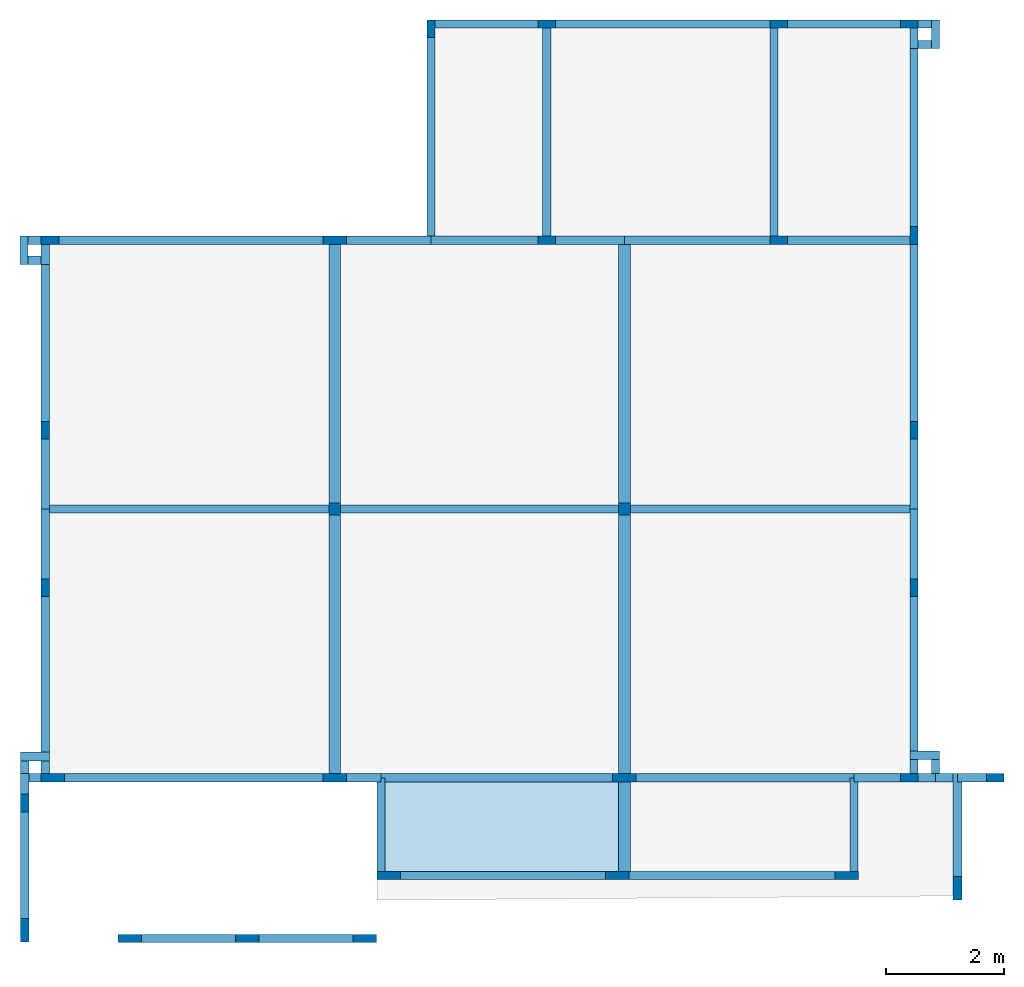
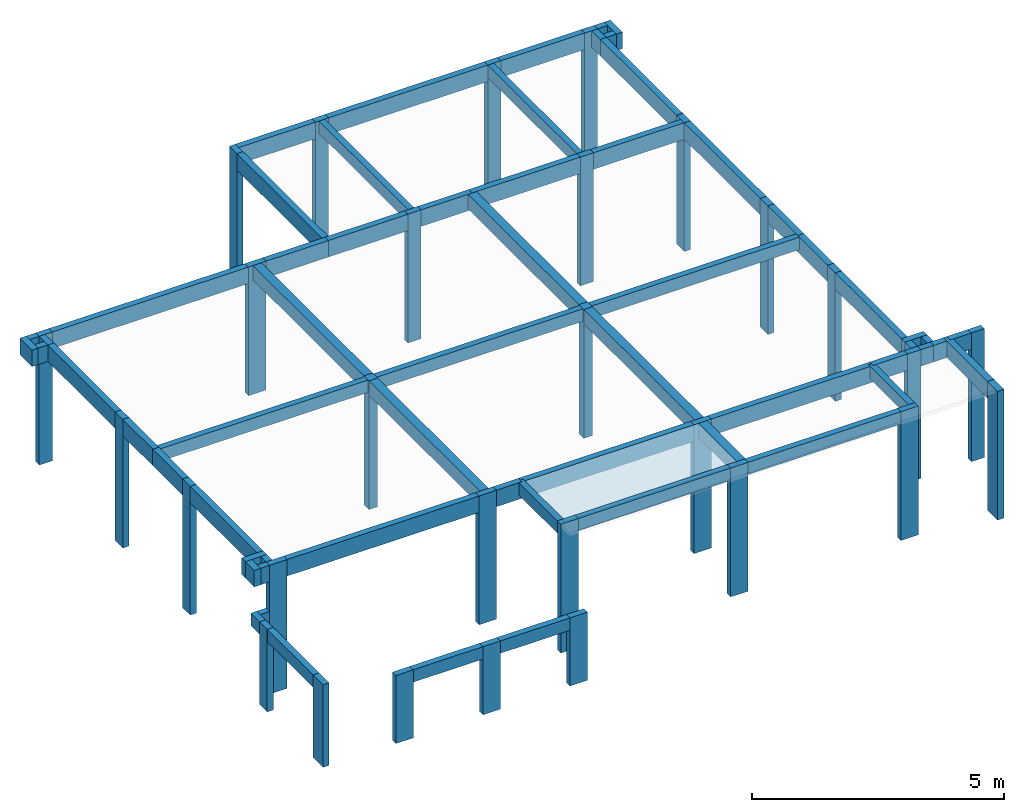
# One storey, part 1 of 7: 62 beams, 29 columns, 1 slab.
"""IFC4 building model written with IfcOpenShell, lengths in centimetres."""

from ifc_helpers import new_model, si_unit, derived_unit, frame, origin_with_axes, origin_2d_with_axis, place, context, project, spatial, polyline, rectangle, outline, extrude, material, element, save


model = new_model("IFC4")

# Units and contexts
model_context = context("Model", 3, precision=1e-05, world=origin_with_axes(), identifier="Body")
ifc_project = project(units=[si_unit("LENGTHUNIT", "METRE", prefix="CENTI"), si_unit("VOLUMEUNIT", "CUBIC_METRE"), si_unit("AREAUNIT", "SQUARE_METRE"), si_unit("POWERUNIT", "WATT"), si_unit("LUMINOUSFLUXUNIT", "LUMEN"), si_unit("ELECTRICCURRENTUNIT", "AMPERE"), si_unit("PRESSUREUNIT", "PASCAL", prefix="KILO"), si_unit("MASSUNIT", "GRAM", prefix="KILO"), si_unit("PLANEANGLEUNIT", "RADIAN"), derived_unit("VOLUMETRICFLOWRATEUNIT", [(si_unit("LENGTHUNIT", "METRE"), 3), (si_unit("TIMEUNIT", "SECOND"), -1)])], contexts=[model_context])

# Site, building, storey
site_placement = place(None, origin_with_axes())
site = spatial("IfcSite", under=ifc_project, at=site_placement)
building_placement = place(site_placement, frame((0.0, 0.0, 24.0)))
building = spatial("IfcBuilding", under=site, at=building_placement)
storey_placement = place(building_placement, frame((0.0, 0.0, 312.0), z_axis=(0.0, 0.0, 1.0), x_axis=(1.0, 0.0, 0.0)))
storey = spatial("IfcBuildingStorey", under=building, at=storey_placement, Name="RESPALDO", CompositionType="ELEMENT", Elevation=336.0)

# Columns
ifc_material = material(Name="Concreto")
for number, where, z_axis, x_axis, name in (
    (1, (682.38, 1555.0, 0.0), (0.0, 0.0, 1.0), (1.0, 0.0, 0.0), "P1"),
    (2, (26.5, 872.02, 0.0), (0.0, 0.0, 1.0), (1.0, 0.0, 0.0), "P10"),
    (3, (1504.19, 872.02, 0.0), (0.0, 0.0, 1.0), (1.0, 0.0, 0.0), "P11"),
):
    element("IfcColumn", number, at=place(storey_placement, frame(where, z_axis=z_axis, x_axis=x_axis)), inside=storey, material=ifc_material, Name=name, context=model_context, shape_type="SolidModel", body=[
        extrude(rectangle(XDim=14.0, YDim=30.0, at=origin_2d_with_axis()), origin_with_axes(), (0.0, 0.0, -1.0), 312.0),
    ])
for number, where, z_axis, x_axis, name in (
    (4, (519.06, 738.26, 0.0), (0.0, 0.0, 1.0), (1.0, 0.0, 0.0), "P12"),
    (5, (1011.63, 738.26, 0.0), (0.0, 0.0, 1.0), (1.0, 0.0, 0.0), "P13"),
):
    element("IfcColumn", number, at=place(storey_placement, frame(where, z_axis=z_axis, x_axis=x_axis)), inside=storey, material=ifc_material, Name=name, context=model_context, shape_type="SolidModel", body=[
        extrude(rectangle(XDim=20.0, YDim=20.0, at=origin_2d_with_axis()), origin_with_axes(), (0.0, 0.0, -1.0), 312.0),
    ])
for number, where, z_axis, x_axis, name in (
    (6, (26.5, 604.5, 0.0), (0.0, 0.0, 1.0), (1.0, 0.0, 0.0), "P14"),
    (7, (1504.19, 604.5, 0.0), (0.0, 0.0, 1.0), (1.0, 0.0, 0.0), "P15"),
):
    element("IfcColumn", number, at=place(storey_placement, frame(where, z_axis=z_axis, x_axis=x_axis)), inside=storey, material=ifc_material, Name=name, context=model_context, shape_type="SolidModel", body=[
        extrude(rectangle(XDim=14.0, YDim=30.0, at=origin_2d_with_axis()), origin_with_axes(), (0.0, 0.0, -1.0), 312.0),
    ])
column_1_placement = place(storey_placement, frame((-8.5, 238.13, -112.0), z_axis=(0.0, 0.0, 1.0), x_axis=(1.0, 0.0, 0.0)))
element("IfcColumn", 8, at=column_1_placement, inside=storey, material=ifc_material, Name="P16", context=model_context, shape_type="SolidModel", body=[
    extrude(rectangle(XDim=14.0, YDim=30.0, at=origin_2d_with_axis()), frame((0.0, 0.0, 0.0), z_axis=(0.0, 0.0, 1.0), x_axis=(-1.0, 0.0, 0.0)), (0.0, 0.0, -1.0), 200.0),
])
for number, where, z_axis, x_axis, name in (
    (9, (39.5, 281.0, 0.0), (0.0, 0.0, 1.0), (1.0, 0.0, 0.0), "P17"),
    (10, (519.06, 281.0, 0.0), (0.0, 0.0, 1.0), (1.0, 0.0, 0.0), "P18"),
    (11, (1011.63, 281.0, 0.0), (0.0, 0.0, 1.0), (1.0, 0.0, 0.0), "P19"),
):
    element("IfcColumn", number, at=place(storey_placement, frame(where, z_axis=z_axis, x_axis=x_axis)), inside=storey, material=ifc_material, Name=name, context=model_context, shape_type="SolidModel", body=[
        extrude(rectangle(XDim=14.0, YDim=40.0, at=origin_2d_with_axis()), frame((0.0, 0.0, 0.0), z_axis=(0.0, 0.0, 1.0), x_axis=(0.0, -1.0, 0.0)), (0.0, 0.0, -1.0), 312.0),
    ])
for number, where, z_axis, x_axis, name in (
    (12, (879.38, 1563.0, 0.0), (0.0, 0.0, 1.0), (1.0, 0.0, 0.0), "P2"),
    (13, (1496.18, 281.0, 0.0), (0.0, 0.0, 1.0), (1.0, 0.0, 0.0), "P20"),
    (14, (1642.23, 281.0, 0.0), (0.0, 0.0, 1.0), (1.0, 0.0, 0.0), "P21"),
):
    element("IfcColumn", number, at=place(storey_placement, frame(where, z_axis=z_axis, x_axis=x_axis)), inside=storey, material=ifc_material, Name=name, context=model_context, shape_type="SolidModel", body=[
        extrude(rectangle(XDim=14.0, YDim=30.0, at=origin_2d_with_axis()), frame((0.0, 0.0, 0.0), z_axis=(0.0, 0.0, 1.0), x_axis=(0.0, -1.0, 0.0)), (0.0, 0.0, -1.0), 312.0),
    ])
for number, where, z_axis, x_axis, name in (
    (15, (610.69, 115.0, 0.0), (0.0, 0.0, 1.0), (1.0, 0.0, 0.0), "P22"),
    (16, (999.69, 115.0, 0.0), (0.0, 0.0, 1.0), (1.0, 0.0, 0.0), "P23"),
    (17, (1389.69, 115.0, 0.0), (0.0, 0.0, 1.0), (1.0, 0.0, 0.0), "P24"),
):
    element("IfcColumn", number, at=place(storey_placement, frame(where, z_axis=z_axis, x_axis=x_axis)), inside=storey, material=ifc_material, Name=name, context=model_context, shape_type="SolidModel", body=[
        extrude(rectangle(XDim=14.0, YDim=40.0, at=origin_2d_with_axis()), frame((0.0, 0.0, 0.0), z_axis=(0.0, 0.0, 1.0), x_axis=(0.0, -1.0, 0.0)), (0.0, 0.0, -1.0), 312.0),
    ])
column_2_placement = place(storey_placement, frame((1578.23, 93.0, 0.0), z_axis=(0.0, 0.0, 1.0), x_axis=(1.0, 0.0, 0.0)))
element("IfcColumn", 18, at=column_2_placement, inside=storey, material=ifc_material, Name="P25", context=model_context, shape_type="SolidModel", body=[
    extrude(rectangle(XDim=15.0, YDim=40.0, at=origin_2d_with_axis()), origin_with_axes(), (0.0, 0.0, -1.0), 312.0),
])
column_3_placement = place(storey_placement, frame((-8.5, 21.5, -112.0), z_axis=(0.0, 0.0, 1.0), x_axis=(1.0, 0.0, 0.0)))
element("IfcColumn", 19, at=column_3_placement, inside=storey, material=ifc_material, Name="P26", context=model_context, shape_type="SolidModel", body=[
    extrude(rectangle(XDim=14.0, YDim=40.0, at=origin_2d_with_axis()), frame((0.0, 0.0, 0.0), z_axis=(0.0, 0.0, 1.0), x_axis=(-1.0, 0.0, 0.0)), (0.0, 0.0, -1.0), 200.0),
])
for number, where, z_axis, x_axis, name in (
    (20, (170.5, 7.5, -147.0), (0.0, 0.0, 1.0), (1.0, 0.0, 0.0), "P27"),
    (21, (370.0, 7.5, -147.0), (0.0, 0.0, 1.0), (1.0, 0.0, 0.0), "P28"),
    (22, (569.5, 7.5, -147.0), (0.0, 0.0, 1.0), (1.0, 0.0, 0.0), "P29"),
):
    element("IfcColumn", number, at=place(storey_placement, frame(where, z_axis=z_axis, x_axis=x_axis)), inside=storey, material=ifc_material, Name=name, context=model_context, shape_type="SolidModel", body=[
        extrude(rectangle(XDim=14.0, YDim=40.0, at=origin_2d_with_axis()), frame((0.0, 0.0, 0.0), z_axis=(0.0, 0.0, 1.0), x_axis=(0.0, -1.0, 0.0)), (0.0, 0.0, -1.0), 165.0),
    ])
for number, where, z_axis, x_axis, name in (
    (23, (1274.22, 1563.0, 0.0), (0.0, 0.0, 1.0), (1.0, 0.0, 0.0), "P3"),
    (24, (1496.18, 1563.0, 0.0), (0.0, 0.0, 1.0), (1.0, 0.0, 0.0), "P4"),
    (25, (34.5, 1195.52, 0.0), (0.0, 0.0, 1.0), (1.0, 0.0, 0.0), "P5"),
):
    element("IfcColumn", number, at=place(storey_placement, frame(where, z_axis=z_axis, x_axis=x_axis)), inside=storey, material=ifc_material, Name=name, context=model_context, shape_type="SolidModel", body=[
        extrude(rectangle(XDim=14.0, YDim=30.0, at=origin_2d_with_axis()), frame((0.0, 0.0, 0.0), z_axis=(0.0, 0.0, 1.0), x_axis=(0.0, -1.0, 0.0)), (0.0, 0.0, -1.0), 312.0),
    ])
column_4_placement = place(storey_placement, frame((519.06, 1195.52, 0.0), z_axis=(0.0, 0.0, 1.0), x_axis=(1.0, 0.0, 0.0)))
element("IfcColumn", 26, at=column_4_placement, inside=storey, material=ifc_material, Name="P6", context=model_context, shape_type="SolidModel", body=[
    extrude(rectangle(XDim=14.0, YDim=40.0, at=origin_2d_with_axis()), frame((0.0, 0.0, 0.0), z_axis=(0.0, 0.0, 1.0), x_axis=(0.0, -1.0, 0.0)), (0.0, 0.0, -1.0), 312.0),
])
for number, where, z_axis, x_axis, name in (
    (27, (879.38, 1195.52, 0.0), (0.0, 0.0, 1.0), (1.0, 0.0, 0.0), "P7"),
    (28, (1274.22, 1195.52, 0.0), (0.0, 0.0, 1.0), (1.0, 0.0, 0.0), "P8"),
):
    element("IfcColumn", number, at=place(storey_placement, frame(where, z_axis=z_axis, x_axis=x_axis)), inside=storey, material=ifc_material, Name=name, context=model_context, shape_type="SolidModel", body=[
        extrude(rectangle(XDim=14.0, YDim=30.0, at=origin_2d_with_axis()), frame((0.0, 0.0, 0.0), z_axis=(0.0, 0.0, 1.0), x_axis=(0.0, -1.0, 0.0)), (0.0, 0.0, -1.0), 312.0),
    ])
column_5_placement = place(storey_placement, frame((1504.18, 1203.52, 0.0), z_axis=(0.0, 0.0, 1.0), x_axis=(1.0, 0.0, 0.0)))
element("IfcColumn", 29, at=column_5_placement, inside=storey, material=ifc_material, Name="P9", context=model_context, shape_type="SolidModel", body=[
    extrude(rectangle(XDim=14.0, YDim=30.0, at=origin_2d_with_axis()), origin_with_axes(), (0.0, 0.0, -1.0), 312.0),
])

# Beams
beam_1_placement = place(storey_placement, frame((1076.8, 1563.0, 0.0), z_axis=(0.0, 0.0, 1.0), x_axis=(1.0, 0.0, 0.0)))
element("IfcBeam", 30, at=beam_1_placement, inside=storey, material=ifc_material, Name="V1", context=model_context, shape_type="SolidModel", body=[
    extrude(rectangle(XDim=14.0, YDim=40.0, at=origin_2d_with_axis()), frame((-182.42, 0.0, -20.0), z_axis=(1.0, 0.0, 0.0), x_axis=(0.0, 1.0, 0.0)), (0.0, 0.0, 1.0), 364.84),
])
beam_2_placement = place(storey_placement, frame((776.88, 1563.0, 0.0), z_axis=(0.0, 0.0, 1.0), x_axis=(1.0, 0.0, 0.0)))
element("IfcBeam", 31, at=beam_2_placement, inside=storey, material=ifc_material, Name="V1", context=model_context, shape_type="SolidModel", body=[
    extrude(rectangle(XDim=14.0, YDim=40.0, at=origin_2d_with_axis()), frame((-87.5, 0.0, -20.0), z_axis=(1.0, 0.0, 0.0), x_axis=(0.0, 1.0, 0.0)), (0.0, 0.0, 1.0), 175.0),
])
beam_3_placement = place(storey_placement, frame((1385.2, 1563.0, 0.0), z_axis=(0.0, 0.0, 1.0), x_axis=(1.0, 0.0, 0.0)))
element("IfcBeam", 32, at=beam_3_placement, inside=storey, material=ifc_material, Name="V1", context=model_context, shape_type="SolidModel", body=[
    extrude(rectangle(XDim=14.0, YDim=40.0, at=origin_2d_with_axis()), frame((-95.98, 0.0, -20.0), z_axis=(1.0, 0.0, 0.0), x_axis=(0.0, 1.0, 0.0)), (0.0, 0.0, 1.0), 191.96),
])
beam_4_placement = place(storey_placement, frame((1522.435, 1563.0, 0.0), z_axis=(0.0, 0.0, 1.0), x_axis=(1.0, 0.0, 0.0)))
element("IfcBeam", 33, at=beam_4_placement, inside=storey, material=ifc_material, Name="V1", context=model_context, shape_type="SolidModel", body=[
    extrude(rectangle(XDim=14.0, YDim=40.0, at=origin_2d_with_axis()), frame((-11.255, 0.0, -20.0), z_axis=(1.0, 0.0, 0.0), x_axis=(0.0, 1.0, 0.0)), (0.0, 0.0, 1.0), 22.51),
])
beam_5_placement = place(storey_placement, frame((879.38, 1379.26, 0.0), z_axis=(0.0, 0.0, 1.0), x_axis=(1.0, 0.0, 0.0)))
element("IfcBeam", 34, at=beam_5_placement, inside=storey, material=ifc_material, Name="V10", context=model_context, shape_type="SolidModel", body=[
    extrude(rectangle(XDim=14.0, YDim=30.0, at=origin_2d_with_axis()), frame((0.0, -176.74, -15.0), z_axis=(0.0, 1.0, 0.0), x_axis=(1.0, 0.0, 0.0)), (0.0, 0.0, 1.0), 353.48),
])
beam_6_placement = place(storey_placement, frame((1011.63, 971.89, 0.0), z_axis=(0.0, 0.0, 1.0), x_axis=(1.0, 0.0, 0.0)))
element("IfcBeam", 35, at=beam_6_placement, inside=storey, material=ifc_material, Name="V11", context=model_context, shape_type="SolidModel", body=[
    extrude(rectangle(XDim=20.0, YDim=35.0, at=origin_2d_with_axis()), frame((0.0, -223.63, -17.5), z_axis=(0.0, 1.0, 0.0), x_axis=(1.0, 0.0, 0.0)), (0.0, 0.0, 1.0), 447.26),
])
beam_7_placement = place(storey_placement, frame((1011.63, 198.0, 0.0), z_axis=(0.0, 0.0, 1.0), x_axis=(1.0, 0.0, 0.0)))
element("IfcBeam", 36, at=beam_7_placement, inside=storey, material=ifc_material, Name="V11", context=model_context, shape_type="SolidModel", body=[
    extrude(rectangle(XDim=20.0, YDim=35.0, at=origin_2d_with_axis()), frame((0.0, -76.0, -17.5), z_axis=(0.0, 1.0, 0.0), x_axis=(1.0, 0.0, 0.0)), (0.0, 0.0, 1.0), 152.0),
])
beam_8_placement = place(storey_placement, frame((1011.63, 508.13, 0.0), z_axis=(0.0, 0.0, 1.0), x_axis=(1.0, 0.0, 0.0)))
element("IfcBeam", 37, at=beam_8_placement, inside=storey, material=ifc_material, Name="V11", context=model_context, shape_type="SolidModel", body=[
    extrude(rectangle(XDim=20.0, YDim=35.0, at=origin_2d_with_axis()), frame((0.0, -220.13, -17.5), z_axis=(0.0, 1.0, 0.0), x_axis=(1.0, 0.0, 0.0)), (0.0, 0.0, 1.0), 440.26),
])
beam_9_placement = place(storey_placement, frame((1266.22, 1379.26, 0.0), z_axis=(0.0, 0.0, 1.0), x_axis=(1.0, 0.0, 0.0)))
element("IfcBeam", 38, at=beam_9_placement, inside=storey, material=ifc_material, Name="V12", context=model_context, shape_type="SolidModel", body=[
    extrude(rectangle(XDim=14.0, YDim=30.0, at=origin_2d_with_axis()), frame((0.0, -176.74, -15.0), z_axis=(0.0, 1.0, 0.0), x_axis=(1.0, 0.0, 0.0)), (0.0, 0.0, 1.0), 353.48),
])
beam_10_placement = place(storey_placement, frame((1402.19, 201.5, 0.0), z_axis=(0.0, 0.0, 1.0), x_axis=(1.0, 0.0, 0.0)))
element("IfcBeam", 39, at=beam_10_placement, inside=storey, material=ifc_material, Name="V13", context=model_context, shape_type="SolidModel", body=[
    extrude(rectangle(XDim=14.0, YDim=30.0, at=origin_2d_with_axis()), frame((0.0, -79.5, -15.0), z_axis=(0.0, 1.0, 0.0), x_axis=(1.0, 0.0, 0.0)), (0.0, 0.0, 1.0), 159.0),
])
beam_11_placement = place(storey_placement, frame((1504.18, 1538.75, 0.0), z_axis=(0.0, 0.0, 1.0), x_axis=(1.0, 0.0, 0.0)))
element("IfcBeam", 40, at=beam_11_placement, inside=storey, material=ifc_material, Name="V14", context=model_context, shape_type="SolidModel", body=[
    extrude(rectangle(XDim=14.0, YDim=40.0, at=origin_2d_with_axis()), frame((0.0, -17.25, -20.0), z_axis=(0.0, 1.0, 0.0), x_axis=(1.0, 0.0, 0.0)), (0.0, 0.0, 1.0), 34.5),
])
beam_12_placement = place(storey_placement, frame((1504.18, 300.25, 0.0), z_axis=(0.0, 0.0, 1.0), x_axis=(1.0, 0.0, 0.0)))
element("IfcBeam", 41, at=beam_12_placement, inside=storey, material=ifc_material, Name="V14", context=model_context, shape_type="SolidModel", body=[
    extrude(rectangle(XDim=14.0, YDim=40.0, at=origin_2d_with_axis()), frame((0.0, -12.25, -20.0), z_axis=(0.0, 1.0, 0.0), x_axis=(1.0, 0.0, 0.0)), (0.0, 0.0, 1.0), 24.5),
])
beam_13_placement = place(storey_placement, frame((1504.18, 1373.51, 0.0), z_axis=(0.0, 0.0, 1.0), x_axis=(1.0, 0.0, 0.0)))
element("IfcBeam", 42, at=beam_13_placement, inside=storey, material=ifc_material, Name="V14", context=model_context, shape_type="SolidModel", body=[
    extrude(rectangle(XDim=14.0, YDim=40.0, at=origin_2d_with_axis()), frame((0.0, -154.99, -20.0), z_axis=(0.0, 1.0, 0.0), x_axis=(1.0, 0.0, 0.0)), (0.0, 0.0, 1.0), 309.98),
])
beam_14_placement = place(storey_placement, frame((1504.18, 454.5, 0.0), z_axis=(0.0, 0.0, 1.0), x_axis=(1.0, 0.0, 0.0)))
element("IfcBeam", 43, at=beam_14_placement, inside=storey, material=ifc_material, Name="V14", context=model_context, shape_type="SolidModel", body=[
    extrude(rectangle(XDim=14.0, YDim=40.0, at=origin_2d_with_axis()), frame((0.0, -135.0, -20.0), z_axis=(0.0, 1.0, 0.0), x_axis=(1.0, 0.0, 0.0)), (0.0, 0.0, 1.0), 270.0),
])
for number, where, z_axis, x_axis, name in (
    (44, (1504.18, 797.64, 0.0), (0.0, 0.0, 1.0), (1.0, 0.0, 0.0), "V14"),
    (45, (1504.18, 678.88, 0.0), (0.0, 0.0, 1.0), (1.0, 0.0, 0.0), "V14"),
):
    element("IfcBeam", number, at=place(storey_placement, frame(where, z_axis=z_axis, x_axis=x_axis)), inside=storey, material=ifc_material, Name=name, context=model_context, shape_type="SolidModel", body=[
        extrude(rectangle(XDim=14.0, YDim=40.0, at=origin_2d_with_axis()), frame((0.0, -59.38, -20.0), z_axis=(0.0, 1.0, 0.0), x_axis=(1.0, 0.0, 0.0)), (0.0, 0.0, 1.0), 118.76),
    ])
beam_15_placement = place(storey_placement, frame((1504.18, 1037.77, 0.0), z_axis=(0.0, 0.0, 1.0), x_axis=(1.0, 0.0, 0.0)))
element("IfcBeam", 46, at=beam_15_placement, inside=storey, material=ifc_material, Name="V14", context=model_context, shape_type="SolidModel", body=[
    extrude(rectangle(XDim=14.0, YDim=40.0, at=origin_2d_with_axis()), frame((0.0, -150.75, -20.0), z_axis=(0.0, 1.0, 0.0), x_axis=(1.0, 0.0, 0.0)), (0.0, 0.0, 1.0), 301.5),
])
beam_16_placement = place(storey_placement, frame((1578.23, 200.5, 0.0), z_axis=(0.0, 0.0, 1.0), x_axis=(1.0, 0.0, 0.0)))
element("IfcBeam", 47, at=beam_16_placement, inside=storey, material=ifc_material, Name="V15", context=model_context, shape_type="SolidModel", body=[
    extrude(rectangle(XDim=15.0, YDim=40.0, at=origin_2d_with_axis()), frame((0.0, -87.5, -20.0), z_axis=(0.0, 1.0, 0.0), x_axis=(1.0, 0.0, 0.0)), (0.0, 0.0, 1.0), 175.0),
])
beam_17_placement = place(storey_placement, frame((1522.435, 1528.5, 0.0), z_axis=(0.0, 0.0, 1.0), x_axis=(1.0, 0.0, 0.0)))
element("IfcBeam", 48, at=beam_17_placement, inside=storey, material=ifc_material, Name="V16", context=model_context, shape_type="SolidModel", body=[
    extrude(rectangle(XDim=14.0, YDim=40.0, at=origin_2d_with_axis()), frame((11.255, 0.0, -20.0), z_axis=(-1.0, 0.0, 0.0), x_axis=(0.0, 1.0, 0.0)), (0.0, 0.0, 1.0), 22.51),
])
beam_18_placement = place(storey_placement, frame((1540.69, 1545.75, 0.0), z_axis=(0.0, 0.0, 1.0), x_axis=(1.0, 0.0, 0.0)))
element("IfcBeam", 49, at=beam_18_placement, inside=storey, material=ifc_material, Name="V16", context=model_context, shape_type="SolidModel", body=[
    extrude(rectangle(XDim=14.0, YDim=40.0, at=origin_2d_with_axis()), frame((0.0, 24.25, -20.0), z_axis=(0.0, -1.0, 0.0), x_axis=(1.0, 0.0, 0.0)), (0.0, 0.0, 1.0), 48.5),
])
beam_19_placement = place(storey_placement, frame((-9.5, 1178.52, 0.0), z_axis=(0.0, 0.0, 1.0), x_axis=(1.0, 0.0, 0.0)))
element("IfcBeam", 50, at=beam_19_placement, inside=storey, material=ifc_material, Name="V17", context=model_context, shape_type="SolidModel", body=[
    extrude(rectangle(XDim=14.0, YDim=40.0, at=origin_2d_with_axis()), frame((0.0, -24.0, -20.0), z_axis=(0.0, 1.0, 0.0), x_axis=(-1.0, 0.0, 0.0)), (0.0, 0.0, 1.0), 48.0),
])
beam_20_placement = place(storey_placement, frame((8.5, 1161.52, 0.0), z_axis=(0.0, 0.0, 1.0), x_axis=(1.0, 0.0, 0.0)))
element("IfcBeam", 51, at=beam_20_placement, inside=storey, material=ifc_material, Name="V17", context=model_context, shape_type="SolidModel", body=[
    extrude(rectangle(XDim=14.0, YDim=40.0, at=origin_2d_with_axis()), frame((11.0, 0.0, -20.0), z_axis=(-1.0, 0.0, 0.0), x_axis=(0.0, 1.0, 0.0)), (0.0, 0.0, 1.0), 22.0),
])
beam_21_placement = place(storey_placement, frame((1540.69, 300.25, 0.0), z_axis=(0.0, 0.0, 1.0), x_axis=(1.0, 0.0, 0.0)))
element("IfcBeam", 52, at=beam_21_placement, inside=storey, material=ifc_material, Name="V18", context=model_context, shape_type="SolidModel", body=[
    extrude(rectangle(XDim=14.0, YDim=40.0, at=origin_2d_with_axis()), frame((0.0, 12.25, -20.0), z_axis=(0.0, -1.0, 0.0), x_axis=(1.0, 0.0, 0.0)), (0.0, 0.0, 1.0), 24.5),
])
beam_22_placement = place(storey_placement, frame((1522.435, 319.5, 0.0), z_axis=(0.0, 0.0, 1.0), x_axis=(1.0, 0.0, 0.0)))
element("IfcBeam", 53, at=beam_22_placement, inside=storey, material=ifc_material, Name="V18", context=model_context, shape_type="SolidModel", body=[
    extrude(rectangle(XDim=14.0, YDim=40.0, at=origin_2d_with_axis()), frame((-25.255, 0.0, -20.0), z_axis=(1.0, 0.0, 0.0), x_axis=(0.0, 1.0, 0.0)), (0.0, 0.0, 1.0), 50.51),
])
beam_23_placement = place(storey_placement, frame((8.75, 317.0, 0.0), z_axis=(0.0, 0.0, 1.0), x_axis=(1.0, 0.0, 0.0)))
element("IfcBeam", 54, at=beam_23_placement, inside=storey, material=ifc_material, Name="V19", context=model_context, shape_type="SolidModel", body=[
    extrude(rectangle(XDim=15.0, YDim=40.0, at=origin_2d_with_axis()), frame((-24.75, 0.0, -20.0), z_axis=(1.0, 0.0, 0.0), x_axis=(0.0, 1.0, 0.0)), (0.0, 0.0, 1.0), 49.5),
])
beam_24_placement = place(storey_placement, frame((-8.5, 291.7486604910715, 0.0), z_axis=(0.0, 0.0, 1.0), x_axis=(1.0, 0.0, 0.0)))
element("IfcBeam", 55, at=beam_24_placement, inside=storey, material=ifc_material, Name="V19", context=model_context, shape_type="SolidModel", body=[
    extrude(rectangle(XDim=15.0, YDim=40.0, at=origin_2d_with_axis()), frame((0.0, -17.751339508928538, -20.0), z_axis=(0.0, 1.0, 0.0), x_axis=(-1.0, 0.0, 0.0)), (0.0, 0.0, 1.0), 35.50267901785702),
])
beam_25_placement = place(storey_placement, frame((274.28, 1195.52, 0.0), z_axis=(0.0, 0.0, 1.0), x_axis=(1.0, 0.0, 0.0)))
element("IfcBeam", 56, at=beam_25_placement, inside=storey, material=ifc_material, Name="V2", context=model_context, shape_type="SolidModel", body=[
    extrude(rectangle(XDim=14.0, YDim=40.0, at=origin_2d_with_axis()), frame((-224.78, 0.0, -20.0), z_axis=(1.0, 0.0, 0.0), x_axis=(0.0, 1.0, 0.0)), (0.0, 0.0, 1.0), 449.56),
])
beam_26_placement = place(storey_placement, frame((8.5, 1195.52, 0.0), z_axis=(0.0, 0.0, 1.0), x_axis=(1.0, 0.0, 0.0)))
element("IfcBeam", 57, at=beam_26_placement, inside=storey, material=ifc_material, Name="V2", context=model_context, shape_type="SolidModel", body=[
    extrude(rectangle(XDim=14.0, YDim=40.0, at=origin_2d_with_axis()), frame((-11.0, 0.0, -20.0), z_axis=(1.0, 0.0, 0.0), x_axis=(0.0, 1.0, 0.0)), (0.0, 0.0, 1.0), 22.0),
])
beam_27_placement = place(storey_placement, frame((610.72, 1195.52, 0.0), z_axis=(0.0, 0.0, 1.0), x_axis=(1.0, 0.0, 0.0)))
element("IfcBeam", 58, at=beam_27_placement, inside=storey, material=ifc_material, Name="V2", context=model_context, shape_type="SolidModel", body=[
    extrude(rectangle(XDim=14.0, YDim=40.0, at=origin_2d_with_axis()), frame((-71.66, 0.0, -20.0), z_axis=(1.0, 0.0, 0.0), x_axis=(0.0, 1.0, 0.0)), (0.0, 0.0, 1.0), 143.32),
])
beam_28_placement = place(storey_placement, frame((1393.2, 1195.52, 0.0), z_axis=(0.0, 0.0, 1.0), x_axis=(1.0, 0.0, 0.0)))
element("IfcBeam", 59, at=beam_28_placement, inside=storey, material=ifc_material, Name="V2", context=model_context, shape_type="SolidModel", body=[
    extrude(rectangle(XDim=14.0, YDim=40.0, at=origin_2d_with_axis()), frame((-103.98, 0.0, -20.0), z_axis=(1.0, 0.0, 0.0), x_axis=(0.0, 1.0, 0.0)), (0.0, 0.0, 1.0), 207.96),
])
beam_29_placement = place(storey_placement, frame((1135.425, 1195.52, 0.0), z_axis=(0.0, 0.0, 1.0), x_axis=(1.0, 0.0, 0.0)))
element("IfcBeam", 60, at=beam_29_placement, inside=storey, material=ifc_material, Name="V2", context=model_context, shape_type="SolidModel", body=[
    extrude(rectangle(XDim=14.0, YDim=40.0, at=origin_2d_with_axis()), frame((-123.795, 0.0, -20.0), z_axis=(1.0, 0.0, 0.0), x_axis=(0.0, 1.0, 0.0)), (0.0, 0.0, 1.0), 247.59),
])
beam_30_placement = place(storey_placement, frame((953.005, 1195.52, 0.0), z_axis=(0.0, 0.0, 1.0), x_axis=(1.0, 0.0, 0.0)))
element("IfcBeam", 61, at=beam_30_placement, inside=storey, material=ifc_material, Name="V2", context=model_context, shape_type="SolidModel", body=[
    extrude(rectangle(XDim=14.0, YDim=40.0, at=origin_2d_with_axis()), frame((-58.625, 0.0, -20.0), z_axis=(1.0, 0.0, 0.0), x_axis=(0.0, 1.0, 0.0)), (0.0, 0.0, 1.0), 117.25),
])
beam_31_placement = place(storey_placement, frame((773.38, 1195.52, 0.0), z_axis=(0.0, 0.0, 1.0), x_axis=(1.0, 0.0, 0.0)))
element("IfcBeam", 62, at=beam_31_placement, inside=storey, material=ifc_material, Name="V2", context=model_context, shape_type="SolidModel", body=[
    extrude(rectangle(XDim=14.0, YDim=40.0, at=origin_2d_with_axis()), frame((-91.0, 0.0, -20.0), z_axis=(1.0, 0.0, 0.0), x_axis=(0.0, 1.0, 0.0)), (0.0, 0.0, 1.0), 182.0),
])
for number, where, z_axis, x_axis, name in (
    (63, (469.75, 7.5, -147.0), (0.0, 0.0, 1.0), (1.0, 0.0, 0.0), "V20"),
    (64, (270.25, 7.5, -147.0), (0.0, 0.0, 1.0), (1.0, 0.0, 0.0), "V20"),
):
    element("IfcBeam", number, at=place(storey_placement, frame(where, z_axis=z_axis, x_axis=x_axis)), inside=storey, material=ifc_material, Name=name, context=model_context, shape_type="SolidModel", body=[
        extrude(rectangle(XDim=14.0, YDim=30.0, at=origin_2d_with_axis()), frame((-79.75, 0.0, -15.0), z_axis=(1.0, 0.0, 0.0), x_axis=(0.0, 1.0, 0.0)), (0.0, 0.0, 1.0), 159.5),
    ])
beam_32_placement = place(storey_placement, frame((-8.5, 132.315, -112.0), z_axis=(0.0, 0.0, 1.0), x_axis=(1.0, 0.0, 0.0)))
element("IfcBeam", 65, at=beam_32_placement, inside=storey, material=ifc_material, Name="V21", context=model_context, shape_type="SolidModel", body=[
    extrude(rectangle(XDim=14.0, YDim=30.0, at=origin_2d_with_axis()), frame((0.0, -90.815, -15.0), z_axis=(0.0, 1.0, 0.0), x_axis=(-1.0, 0.0, 0.0)), (0.0, 0.0, 1.0), 181.63),
])
beam_33_placement = place(storey_placement, frame((8.99875, 280.9937504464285, -112.0), z_axis=(0.0, 0.0, 1.0), x_axis=(1.0, 0.0, 0.0)))
element("IfcBeam", 66, at=beam_33_placement, inside=storey, material=ifc_material, Name="V21", context=model_context, shape_type="SolidModel", body=[
    extrude(rectangle(XDim=14.0, YDim=30.0, at=origin_2d_with_axis()), frame((-10.50125, 0.003750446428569, -15.0), z_axis=(1.0, -0.000357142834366, 0.0), x_axis=(0.000357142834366, 1.0, 0.0)), (0.0, 0.0, 1.0), 21.002501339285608),
])
beam_34_placement = place(storey_placement, frame((-8.5, 270.56625022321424, -112.0), z_axis=(0.0, 0.0, 1.0), x_axis=(1.0, 0.0, 0.0)))
element("IfcBeam", 67, at=beam_34_placement, inside=storey, material=ifc_material, Name="V21", context=model_context, shape_type="SolidModel", body=[
    extrude(rectangle(XDim=14.0, YDim=30.0, at=origin_2d_with_axis()), frame((0.0, -17.436250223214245, -15.0), z_axis=(0.0, 1.0, 0.0), x_axis=(-1.0, 0.0, 0.0)), (0.0, 0.0, 1.0), 34.87250044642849),
])
beam_35_placement = place(storey_placement, frame((1262.905, 738.26, 0.0), z_axis=(0.0, 0.0, 1.0), x_axis=(1.0, 0.0, 0.0)))
element("IfcBeam", 68, at=beam_35_placement, inside=storey, material=ifc_material, Name="V3", context=model_context, shape_type="SolidModel", body=[
    extrude(rectangle(XDim=14.0, YDim=30.0, at=origin_2d_with_axis()), frame((-241.275, 0.0, -15.0), z_axis=(1.0, 0.0, 0.0), x_axis=(0.0, 1.0, 0.0)), (0.0, 0.0, 1.0), 482.55),
])
beam_36_placement = place(storey_placement, frame((765.345, 738.26, 0.0), z_axis=(0.0, 0.0, 1.0), x_axis=(1.0, 0.0, 0.0)))
element("IfcBeam", 69, at=beam_36_placement, inside=storey, material=ifc_material, Name="V3", context=model_context, shape_type="SolidModel", body=[
    extrude(rectangle(XDim=14.0, YDim=30.0, at=origin_2d_with_axis()), frame((-236.285, 0.0, -15.0), z_axis=(1.0, 0.0, 0.0), x_axis=(0.0, 1.0, 0.0)), (0.0, 0.0, 1.0), 472.57),
])
beam_37_placement = place(storey_placement, frame((267.78, 738.26, 0.0), z_axis=(0.0, 0.0, 1.0), x_axis=(1.0, 0.0, 0.0)))
element("IfcBeam", 70, at=beam_37_placement, inside=storey, material=ifc_material, Name="V3", context=model_context, shape_type="SolidModel", body=[
    extrude(rectangle(XDim=14.0, YDim=30.0, at=origin_2d_with_axis()), frame((-241.28, 0.0, -15.0), z_axis=(1.0, 0.0, 0.0), x_axis=(0.0, 1.0, 0.0)), (0.0, 0.0, 1.0), 482.56),
])
beam_38_placement = place(storey_placement, frame((1552.21, 281.0, 0.0), z_axis=(0.0, 0.0, 1.0), x_axis=(1.0, 0.0, 0.0)))
element("IfcBeam", 71, at=beam_38_placement, inside=storey, material=ifc_material, Name="V4", context=model_context, shape_type="SolidModel", body=[
    extrude(rectangle(XDim=14.0, YDim=40.0, at=origin_2d_with_axis()), frame((-18.52, 0.0, -20.0), z_axis=(1.0, 0.0, 0.0), x_axis=(0.0, 1.0, 0.0)), (0.0, 0.0, 1.0), 37.04),
])
beam_39_placement = place(storey_placement, frame((1602.73, 281.0, 0.0), z_axis=(0.0, 0.0, 1.0), x_axis=(1.0, 0.0, 0.0)))
element("IfcBeam", 72, at=beam_39_placement, inside=storey, material=ifc_material, Name="V4", context=model_context, shape_type="SolidModel", body=[
    extrude(rectangle(XDim=14.0, YDim=40.0, at=origin_2d_with_axis()), frame((-24.5, 0.0, -20.0), z_axis=(1.0, 0.0, 0.0), x_axis=(0.0, 1.0, 0.0)), (0.0, 0.0, 1.0), 49.0),
])
beam_40_placement = place(storey_placement, frame((9.24875, 280.9936611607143, 0.0), z_axis=(0.0, 0.0, 1.0), x_axis=(1.0, 0.0, 0.0)))
element("IfcBeam", 73, at=beam_40_placement, inside=storey, material=ifc_material, Name="V4", context=model_context, shape_type="SolidModel", body=[
    extrude(rectangle(XDim=14.0, YDim=40.0, at=origin_2d_with_axis()), frame((-10.25125, 0.003661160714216, -20.0), z_axis=(1.0, -0.000357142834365, 0.0), x_axis=(0.000357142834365, 1.0, 0.0)), (0.0, 0.0, 1.0), 20.502501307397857),
])
beam_41_placement = place(storey_placement, frame((568.375, 281.0, 0.0), z_axis=(0.0, 0.0, 1.0), x_axis=(1.0, 0.0, 0.0)))
element("IfcBeam", 74, at=beam_41_placement, inside=storey, material=ifc_material, Name="V4", context=model_context, shape_type="SolidModel", body=[
    extrude(rectangle(XDim=14.0, YDim=40.0, at=origin_2d_with_axis()), frame((-29.315, 0.0, -20.0), z_axis=(1.0, 0.0, 0.0), x_axis=(0.0, 1.0, 0.0)), (0.0, 0.0, 1.0), 58.63),
])
beam_42_placement = place(storey_placement, frame((1525.935, 281.0, 0.0), z_axis=(0.0, 0.0, 1.0), x_axis=(1.0, 0.0, 0.0)))
element("IfcBeam", 75, at=beam_42_placement, inside=storey, material=ifc_material, Name="V4", context=model_context, shape_type="SolidModel", body=[
    extrude(rectangle(XDim=14.0, YDim=40.0, at=origin_2d_with_axis()), frame((-14.755, 0.0, -20.0), z_axis=(1.0, 0.0, 0.0), x_axis=(0.0, 1.0, 0.0)), (0.0, 0.0, 1.0), 29.51),
])
beam_43_placement = place(storey_placement, frame((1216.91, 281.0, 0.0), z_axis=(0.0, 0.0, 1.0), x_axis=(1.0, 0.0, 0.0)))
element("IfcBeam", 76, at=beam_43_placement, inside=storey, material=ifc_material, Name="V4", context=model_context, shape_type="SolidModel", body=[
    extrude(rectangle(XDim=14.0, YDim=40.0, at=origin_2d_with_axis()), frame((-185.28, 0.0, -20.0), z_axis=(1.0, 0.0, 0.0), x_axis=(0.0, 1.0, 0.0)), (0.0, 0.0, 1.0), 370.56),
])
beam_44_placement = place(storey_placement, frame((1441.685, 281.0, 0.0), z_axis=(0.0, 0.0, 1.0), x_axis=(1.0, 0.0, 0.0)))
element("IfcBeam", 77, at=beam_44_placement, inside=storey, material=ifc_material, Name="V4", context=model_context, shape_type="SolidModel", body=[
    extrude(rectangle(XDim=14.0, YDim=40.0, at=origin_2d_with_axis()), frame((-39.495, 0.0, -20.0), z_axis=(1.0, 0.0, 0.0), x_axis=(0.0, 1.0, 0.0)), (0.0, 0.0, 1.0), 78.99),
])
beam_45_placement = place(storey_placement, frame((794.66, 281.0, 0.0), z_axis=(0.0, 0.0, 1.0), x_axis=(1.0, 0.0, 0.0)))
element("IfcBeam", 78, at=beam_45_placement, inside=storey, material=ifc_material, Name="V4", context=model_context, shape_type="SolidModel", body=[
    extrude(rectangle(XDim=14.0, YDim=40.0, at=origin_2d_with_axis()), frame((-196.97, 0.0, -20.0), z_axis=(1.0, 0.0, 0.0), x_axis=(0.0, 1.0, 0.0)), (0.0, 0.0, 1.0), 393.94),
])
beam_46_placement = place(storey_placement, frame((279.28, 280.995, 0.0), z_axis=(0.0, 0.0, 1.0), x_axis=(1.0, 0.0, 0.0)))
element("IfcBeam", 79, at=beam_46_placement, inside=storey, material=ifc_material, Name="V4", context=model_context, shape_type="SolidModel", body=[
    extrude(rectangle(XDim=14.0, YDim=40.0, at=origin_2d_with_axis()), frame((-219.78, -0.005, -20.0), z_axis=(1.0, 2.2750022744e-05, 0.0), x_axis=(-2.2750022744e-05, 1.0, 0.0)), (0.0, 0.0, 1.0), 439.56000011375),
])
beam_47_placement = place(storey_placement, frame((805.19, 115.0, 0.0), z_axis=(0.0, 0.0, 1.0), x_axis=(1.0, 0.0, 0.0)))
element("IfcBeam", 80, at=beam_47_placement, inside=storey, material=ifc_material, Name="V5", context=model_context, shape_type="SolidModel", body=[
    extrude(rectangle(XDim=14.0, YDim=30.0, at=origin_2d_with_axis()), frame((-174.5, 0.0, -15.0), z_axis=(1.0, 0.0, 0.0), x_axis=(0.0, 1.0, 0.0)), (0.0, 0.0, 1.0), 349.0),
])
beam_48_placement = place(storey_placement, frame((1194.69, 115.0, 0.0), z_axis=(0.0, 0.0, 1.0), x_axis=(1.0, 0.0, 0.0)))
element("IfcBeam", 81, at=beam_48_placement, inside=storey, material=ifc_material, Name="V5", context=model_context, shape_type="SolidModel", body=[
    extrude(rectangle(XDim=14.0, YDim=30.0, at=origin_2d_with_axis()), frame((-175.0, 0.0, -15.0), z_axis=(1.0, 0.0, 0.0), x_axis=(0.0, 1.0, 0.0)), (0.0, 0.0, 1.0), 350.0),
])
beam_49_placement = place(storey_placement, frame((26.5, 298.75, 0.0), z_axis=(0.0, 0.0, 1.0), x_axis=(1.0, 0.0, 0.0)))
element("IfcBeam", 82, at=beam_49_placement, inside=storey, material=ifc_material, Name="V6", context=model_context, shape_type="SolidModel", body=[
    extrude(rectangle(XDim=14.0, YDim=40.0, at=origin_2d_with_axis()), frame((0.0, -10.75, -20.0), z_axis=(0.0, 1.0, 0.0), x_axis=(-1.0, 0.0, 0.0)), (0.0, 0.0, 1.0), 21.5),
])
beam_50_placement = place(storey_placement, frame((26.5, 1024.27, 0.0), z_axis=(0.0, 0.0, 1.0), x_axis=(1.0, 0.0, 0.0)))
element("IfcBeam", 83, at=beam_50_placement, inside=storey, material=ifc_material, Name="V6", context=model_context, shape_type="SolidModel", body=[
    extrude(rectangle(XDim=14.0, YDim=40.0, at=origin_2d_with_axis()), frame((0.0, -137.25, -20.0), z_axis=(0.0, 1.0, 0.0), x_axis=(-1.0, 0.0, 0.0)), (0.0, 0.0, 1.0), 274.5),
])
beam_51_placement = place(storey_placement, frame((26.5, 453.25, 0.0), z_axis=(0.0, 0.0, 1.0), x_axis=(1.0, 0.0, 0.0)))
element("IfcBeam", 84, at=beam_51_placement, inside=storey, material=ifc_material, Name="V6", context=model_context, shape_type="SolidModel", body=[
    extrude(rectangle(XDim=14.0, YDim=40.0, at=origin_2d_with_axis()), frame((0.0, -136.25, -20.0), z_axis=(0.0, 1.0, 0.0), x_axis=(-1.0, 0.0, 0.0)), (0.0, 0.0, 1.0), 272.5),
])
for number, where, z_axis, x_axis, name in (
    (85, (26.5, 678.88, 0.0), (0.0, 0.0, 1.0), (1.0, 0.0, 0.0), "V6"),
    (86, (26.5, 797.64, 0.0), (0.0, 0.0, 1.0), (1.0, 0.0, 0.0), "V6"),
):
    element("IfcBeam", number, at=place(storey_placement, frame(where, z_axis=z_axis, x_axis=x_axis)), inside=storey, material=ifc_material, Name=name, context=model_context, shape_type="SolidModel", body=[
        extrude(rectangle(XDim=14.0, YDim=40.0, at=origin_2d_with_axis()), frame((0.0, -59.38, -20.0), z_axis=(0.0, 1.0, 0.0), x_axis=(-1.0, 0.0, 0.0)), (0.0, 0.0, 1.0), 118.76),
    ])
beam_52_placement = place(storey_placement, frame((26.5, 1171.52, 0.0), z_axis=(0.0, 0.0, 1.0), x_axis=(1.0, 0.0, 0.0)))
element("IfcBeam", 87, at=beam_52_placement, inside=storey, material=ifc_material, Name="V6", context=model_context, shape_type="SolidModel", body=[
    extrude(rectangle(XDim=14.0, YDim=40.0, at=origin_2d_with_axis()), frame((0.0, -17.0, -20.0), z_axis=(0.0, 1.0, 0.0), x_axis=(-1.0, 0.0, 0.0)), (0.0, 0.0, 1.0), 34.0),
])
for number, where, z_axis, x_axis, name in (
    (88, (519.06, 508.13, 0.0), (0.0, 0.0, 1.0), (1.0, 0.0, 0.0), "V7"),
    (89, (519.06, 968.39, 0.0), (0.0, 0.0, 1.0), (1.0, 0.0, 0.0), "V7"),
):
    element("IfcBeam", number, at=place(storey_placement, frame(where, z_axis=z_axis, x_axis=x_axis)), inside=storey, material=ifc_material, Name=name, context=model_context, shape_type="SolidModel", body=[
        extrude(rectangle(XDim=20.0, YDim=35.0, at=origin_2d_with_axis()), frame((0.0, -220.13, -17.5), z_axis=(0.0, 1.0, 0.0), x_axis=(1.0, 0.0, 0.0)), (0.0, 0.0, 1.0), 440.26),
    ])
beam_53_placement = place(storey_placement, frame((597.69, 201.5, 0.0), z_axis=(0.0, 0.0, 1.0), x_axis=(1.0, 0.0, 0.0)))
element("IfcBeam", 90, at=beam_53_placement, inside=storey, material=ifc_material, Name="V8", context=model_context, shape_type="SolidModel", body=[
    extrude(rectangle(XDim=14.0, YDim=30.0, at=origin_2d_with_axis()), frame((0.0, -79.5, -15.0), z_axis=(0.0, 1.0, 0.0), x_axis=(1.0, 0.0, 0.0)), (0.0, 0.0, 1.0), 159.0),
])
beam_54_placement = place(storey_placement, frame((682.38, 1367.76, 0.0), z_axis=(0.0, 0.0, 1.0), x_axis=(1.0, 0.0, 0.0)))
element("IfcBeam", 91, at=beam_54_placement, inside=storey, material=ifc_material, Name="V9", context=model_context, shape_type="SolidModel", body=[
    extrude(rectangle(XDim=14.0, YDim=40.0, at=origin_2d_with_axis()), frame((0.0, -172.24, -20.0), z_axis=(0.0, 1.0, 0.0), x_axis=(-1.0, 0.0, 0.0)), (0.0, 0.0, 1.0), 344.48),
])

# Slab
slab_placement = place(storey_placement, frame((803.16, 198.0, 0.0), z_axis=(0.0, 0.0, 1.0), x_axis=(1.0, 0.0, 0.0)))
element("IfcSlab", 92, at=slab_placement, inside=storey, material=ifc_material, Name="L10", PredefinedType="FLOOR", context=model_context, shape_type="SolidModel", body=[
    extrude(outline(polyline([(198.47, -75.999), (198.47, 76.0), (-198.469, 75.999), (-198.47, -76.0), (198.47, -75.999), (198.47, -75.999)])), frame((0.0, 0.0, -8.0), z_axis=(0.0, 0.0, 1.0), x_axis=(1.0, 0.0, 0.0)), (0.0, 0.0, 1.0), 8.0),
])

save(model, "model.ifc")
